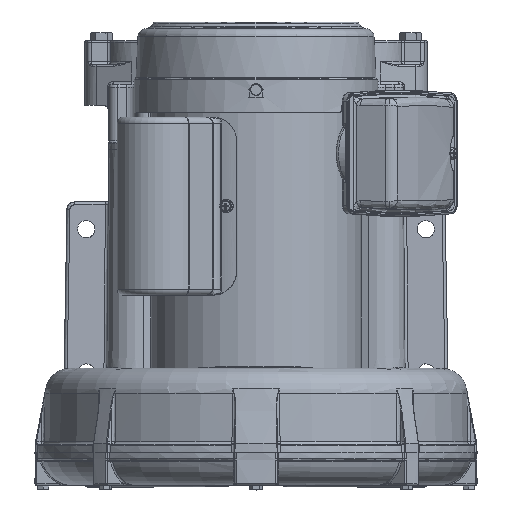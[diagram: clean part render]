
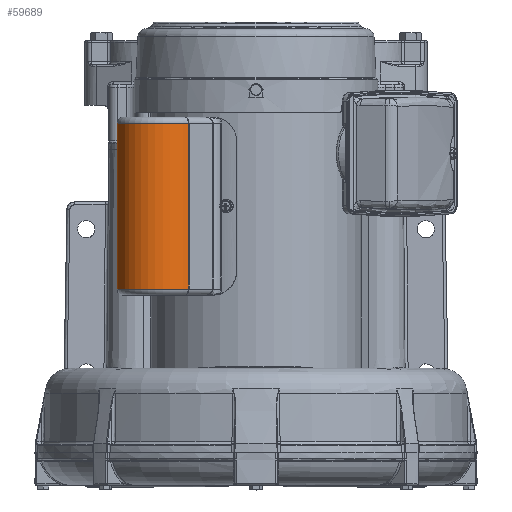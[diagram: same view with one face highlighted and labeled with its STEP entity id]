
A CAD part, top view. The second image highlights one B-rep face of the part: STEP entity #59689.
In plain terms, the highlighted cylindrical face has radius 28 mm (diameter 56 mm), a partial arc.
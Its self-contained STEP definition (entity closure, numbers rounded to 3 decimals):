
#641=CYLINDRICAL_SURFACE('',#63454,28.);
#2360=LINE('',#89595,#4498);
#2362=LINE('',#89599,#4500);
#4498=VECTOR('',#69922,110.);
#4500=VECTOR('',#69926,110.);
#7996=CIRCLE('',#63451,28.);
#7997=CIRCLE('',#63455,28.);
#11510=FACE_OUTER_BOUND('',#15111,.T.);
#15111=EDGE_LOOP('',(#39056,#39057,#39058,#39059));
#22631=VERTEX_POINT('',#89584);
#22632=VERTEX_POINT('',#89588);
#22633=VERTEX_POINT('',#89594);
#22634=VERTEX_POINT('',#89598);
#28745=EDGE_CURVE('',#22631,#22632,#7996,.T.);
#28747=EDGE_CURVE('',#22633,#22632,#2360,.T.);
#28749=EDGE_CURVE('',#22631,#22634,#2362,.T.);
#28750=EDGE_CURVE('',#22633,#22634,#7997,.T.);
#39056=ORIENTED_EDGE('',*,*,#28745,.F.);
#39057=ORIENTED_EDGE('',*,*,#28749,.T.);
#39058=ORIENTED_EDGE('',*,*,#28750,.F.);
#39059=ORIENTED_EDGE('',*,*,#28747,.T.);
#59689=ADVANCED_FACE('',(#11510),#641,.T.);
#63451=AXIS2_PLACEMENT_3D('',#89590,#69915,#69916);
#63454=AXIS2_PLACEMENT_3D('',#89597,#69924,#69925);
#63455=AXIS2_PLACEMENT_3D('',#89600,#69927,#69928);
#69915=DIRECTION('center_axis',(0.,1.,0.));
#69916=DIRECTION('ref_axis',(-0.707,0.,0.707));
#69922=DIRECTION('',(0.,1.,0.));
#69924=DIRECTION('center_axis',(0.,1.,0.));
#69925=DIRECTION('ref_axis',(-0.707,0.,-0.707));
#69926=DIRECTION('',(0.,-1.,0.));
#69927=DIRECTION('center_axis',(0.,-1.,0.));
#69928=DIRECTION('ref_axis',(-0.707,0.,0.707));
#89584=CARTESIAN_POINT('',(-83.991,218.796,44.484));
#89588=CARTESIAN_POINT('',(-44.408,218.796,84.096));
#89590=CARTESIAN_POINT('Origin',(-64.199,218.796,64.29));
#89594=CARTESIAN_POINT('',(-44.408,108.796,84.096));
#89595=CARTESIAN_POINT('',(-44.408,163.796,84.096));
#89597=CARTESIAN_POINT('Origin',(-64.199,163.796,64.29));
#89598=CARTESIAN_POINT('',(-83.991,108.796,44.484));
#89599=CARTESIAN_POINT('',(-83.991,163.796,44.484));
#89600=CARTESIAN_POINT('Origin',(-64.199,108.796,64.29));
